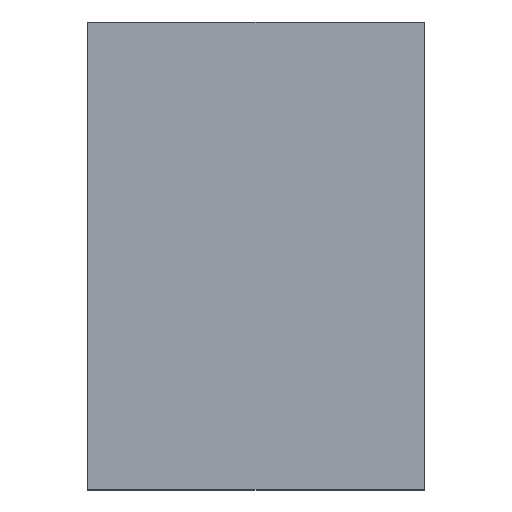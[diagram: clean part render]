
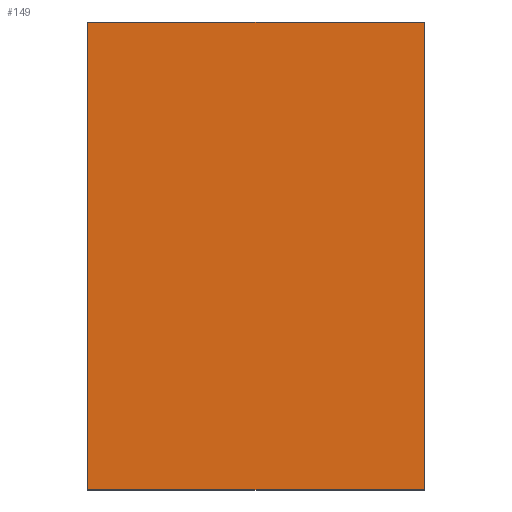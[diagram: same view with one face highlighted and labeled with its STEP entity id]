
A CAD part, top view. The second image highlights one B-rep face of the part: STEP entity #149.
In plain terms, the highlighted planar face has unit normal (0, 0, 1).
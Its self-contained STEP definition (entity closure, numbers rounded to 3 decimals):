
#34=DIRECTION('',(1.,0.,0.));
#35=VECTOR('',#34,53.1);
#36=CARTESIAN_POINT('',(-26.55,-36.95,3.6));
#37=LINE('',#36,#35);
#38=DIRECTION('',(0.,-1.,0.));
#39=VECTOR('',#38,73.9);
#40=CARTESIAN_POINT('',(-26.55,36.95,3.6));
#41=LINE('',#40,#39);
#42=DIRECTION('',(-1.,0.,0.));
#43=VECTOR('',#42,53.1);
#44=CARTESIAN_POINT('',(26.55,36.95,3.6));
#45=LINE('',#44,#43);
#46=DIRECTION('',(0.,1.,0.));
#47=VECTOR('',#46,73.9);
#48=CARTESIAN_POINT('',(26.55,-36.95,3.6));
#49=LINE('',#48,#47);
#58=CARTESIAN_POINT('',(-26.55,-36.95,3.6));
#59=CARTESIAN_POINT('',(26.55,-36.95,3.6));
#60=VERTEX_POINT('',#58);
#61=VERTEX_POINT('',#59);
#62=CARTESIAN_POINT('',(26.55,36.95,3.6));
#63=VERTEX_POINT('',#62);
#64=CARTESIAN_POINT('',(-26.55,36.95,3.6));
#65=VERTEX_POINT('',#64);
#138=CARTESIAN_POINT('',(0.,0.,3.6));
#139=DIRECTION('',(0.,0.,1.));
#140=DIRECTION('',(1.,0.,0.));
#141=AXIS2_PLACEMENT_3D('',#138,#139,#140);
#142=PLANE('',#141);
#143=ORIENTED_EDGE('',*,*,#90,.F.);
#144=ORIENTED_EDGE('',*,*,#105,.F.);
#145=ORIENTED_EDGE('',*,*,#119,.F.);
#146=ORIENTED_EDGE('',*,*,#132,.F.);
#147=EDGE_LOOP('',(#143,#144,#145,#146));
#148=FACE_OUTER_BOUND('',#147,.F.);
#149=ADVANCED_FACE('',(#148),#142,.T.);
#90=EDGE_CURVE('',#60,#61,#37,.T.);
#105=EDGE_CURVE('',#65,#60,#41,.T.);
#119=EDGE_CURVE('',#63,#65,#45,.T.);
#132=EDGE_CURVE('',#61,#63,#49,.T.);
